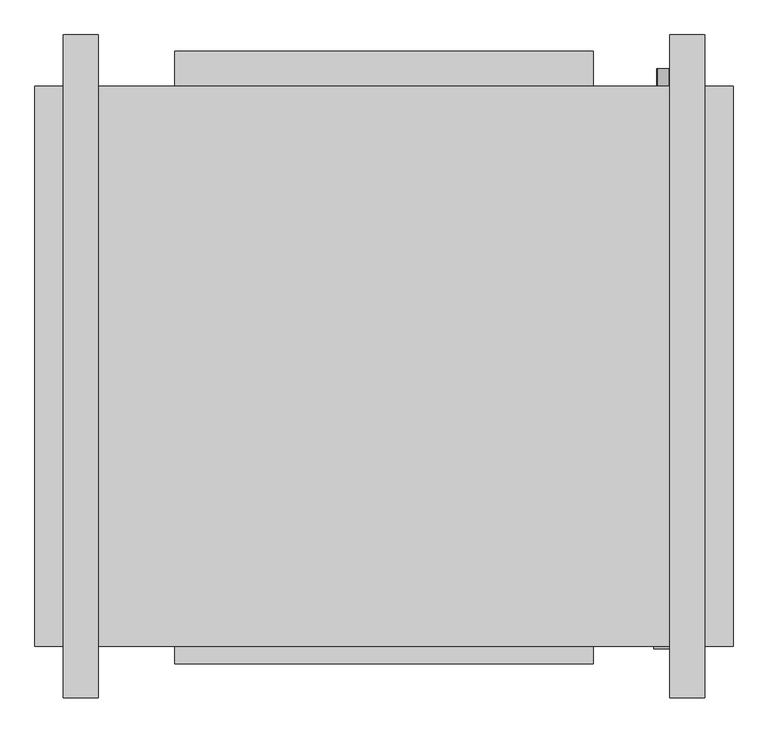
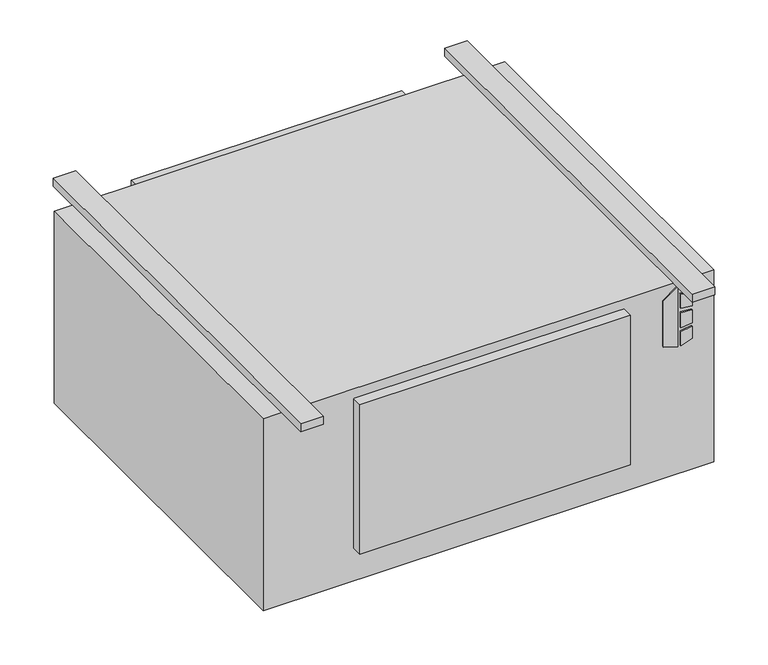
"""IFC4 building model written with IfcOpenShell, lengths in millimetres: proxy geometry, Concealed_High_Capacity_Horizontal_Cabinet_Fan_Coil_Unit_-_HXY_-_IEC_-_2-Pipe_Cool-EHeat_RH_2022 : Size 10 - 277v/60Hz/1Ph - 6 Row 7.0kW."""

from ifc_helpers import new_model, si_unit, point, frame, frame_2d, origin, origin_with_axes, place, context, project, spatial, polyline, circle_curve, trimmed, segment, composite_curve, outline, extrude, source, transform, mapped, element, save


def mechanical_equipment_601507ec(model_context):
    return source(origin(), model_context, "Body", "SweptSolid", [
        extrude(outline(polyline([(-142.4519297, 544.5868862), (-152.4, 576.7602728), (-10.2290756, 576.7602728), (-33.2510817, 544.5868862), (-142.4519297, 544.5868862)])), frame((0.0, -649.2875, 0.0), z_axis=(0.0, 1.0, 0.0), x_axis=(0.0, 0.0, 1.0)), (0.0, 0.0, 1.0), 3.175),
        extrude(outline(polyline([(-63.4526443, 583.5186058), (-66.6550368, 609.6), (-37.4261958, 609.6), (-29.3617807, 583.5186058), (-63.4526443, 583.5186058)])), frame((0.0, -649.2875, 0.0), z_axis=(0.0, 1.0, 0.0), x_axis=(0.0, 0.0, 1.0)), (0.0, 0.0, 1.0), 3.175),
        extrude(outline(polyline([(-115.3161712, 609.6), (-118.9816721, 583.5186058), (-152.4, 583.5186058), (-143.7657628, 609.6), (-115.3161712, 609.6)])), frame((0.0, -649.2875, 0.0), z_axis=(0.0, 1.0, 0.0), x_axis=(0.0, 0.0, 1.0)), (0.0, 0.0, 1.0), 3.175),
        extrude(outline(polyline([(-76.0010097, 609.6), (-73.7191834, 583.5186058), (-109.6567319, 583.5186058), (-106.9154669, 609.6), (-76.0010097, 609.6)])), frame((0.0, -649.2875, 0.0), z_axis=(0.0, 1.0, 0.0), x_axis=(0.0, 0.0, 1.0)), (0.0, 0.0, 1.0), 3.175),
        extrude(outline(composite_curve([segment(trimmed(circle_curve(frame_2d((-406.4, 558.8)), 9.525), [point((-406.4, 549.275))], [point((-406.4, 568.325))], False, "CARTESIAN"), True, "CONTINUOUS"), segment(trimmed(circle_curve(frame_2d((-406.4, 558.8)), 9.525), [point((-406.4, 568.325))], [point((-406.4, 549.275))], False, "CARTESIAN"), True, "CONTINUOUS")], self_intersect=False)), frame((0.0, 169.8625, 0.0), z_axis=(0.0, 1.0, 0.0), x_axis=(0.0, 0.0, 1.0)), (0.0, 0.0, 1.0), 25.4),
        extrude(outline(composite_curve([segment(trimmed(circle_curve(frame_2d((-330.2, 558.8)), 7.9375), [point((-330.2, 550.8625))], [point((-330.2, 566.7375))], False, "CARTESIAN"), True, "CONTINUOUS"), segment(trimmed(circle_curve(frame_2d((-330.2, 558.8)), 7.9375), [point((-330.2, 566.7375))], [point((-330.2, 550.8625))], False, "CARTESIAN"), True, "CONTINUOUS")], self_intersect=False)), frame((0.0, 169.8625, 0.0), z_axis=(0.0, 1.0, 0.0), x_axis=(0.0, 0.0, 1.0)), (0.0, 0.0, 1.0), 25.4),
        extrude(outline(composite_curve([segment(trimmed(circle_curve(frame_2d((-254.0, 558.8)), 7.9375), [point((-254.0, 550.8625))], [point((-254.0, 566.7375))], False, "CARTESIAN"), True, "CONTINUOUS"), segment(trimmed(circle_curve(frame_2d((-254.0, 558.8)), 7.9375), [point((-254.0, 566.7375))], [point((-254.0, 550.8625))], False, "CARTESIAN"), True, "CONTINUOUS")], self_intersect=False)), frame((0.0, 169.8625, 0.0), z_axis=(0.0, 1.0, 0.0), x_axis=(0.0, 0.0, 1.0)), (0.0, 0.0, 1.0), 25.4),
        extrude(outline(polyline([(660.4, 169.8625), (660.4, -646.1125), (-355.6, -646.1125), (-355.6, 169.8625), (660.4, 169.8625)])), frame((0.0, 0.0, -457.2), z_axis=(0.0, 0.0, 1.0), x_axis=(1.0, 0.0, 0.0)), (0.0, 0.0, 1.0), 457.2),
        extrude(outline(polyline([(-152.4, 220.6625), (457.2, 220.6625), (457.2, 169.8625), (-152.4, 169.8625), (-152.4, 220.6625)])), frame((0.0, 0.0, -377.825), z_axis=(0.0, 0.0, 1.0), x_axis=(1.0, 0.0, 0.0)), (0.0, 0.0, 1.0), 349.25),
        extrude(outline(polyline([(-263.525, 244.475), (-263.525, -720.725), (-314.325, -720.725), (-314.325, 244.475), (-263.525, 244.475)])), origin_with_axes(), (0.0, 0.0, 1.0), 19.05),
        extrude(outline(polyline([(619.125, 244.475), (619.125, -720.725), (568.325, -720.725), (568.325, 244.475), (619.125, 244.475)])), origin_with_axes(), (0.0, 0.0, 1.0), 19.05),
        extrude(outline(polyline([(457.2, -671.5125), (-152.4, -671.5125), (-152.4, -646.1125), (457.2, -646.1125), (457.2, -671.5125)])), frame((0.0, 0.0, -377.825), z_axis=(0.0, 0.0, 1.0), x_axis=(1.0, 0.0, 0.0)), (0.0, 0.0, 1.0), 355.6),
    ])


if __name__ == "__main__":
    model = new_model("IFC4")
    model_context = context("Model", 3, world=origin())
    ifc_project = project(units=[si_unit("LENGTHUNIT", "METRE", prefix="MILLI")], contexts=[model_context])
    site = spatial("IfcSite", under=ifc_project)
    building = spatial("IfcBuilding", under=site)
    placement = place(None, origin())
    mechanical_equipment_shape = mechanical_equipment_601507ec(model_context)
    element("IfcBuildingElementProxy", 1, Name="Concealed_High_Capacity_Horizontal_Cabinet_Fan_Coil_Unit_-_HXY_-_IEC_-_2-Pipe_Cool-EHeat_RH_2022 : Size 10 - 277v/60Hz/1Ph - 6 Row 7.0kW", ObjectType="Concealed_High_Capacity_Horizontal_Cabinet_Fan_Coil_Unit_-_HXY_-_IEC_-_2-Pipe_Cool-EHeat_RH_2022 : Size 10 - 277v/60Hz/1Ph - 6 Row 7.0kW", at=placement, inside=building, context=model_context, shape_type="MappedRepresentation", body=[
        mapped(mechanical_equipment_shape, transform((0.0, 0.0, 0.0), x_axis=(1.0, 0.0, 0.0), y_axis=(0.0, 1.0, 0.0), z_axis=(0.0, 0.0, 1.0))),
    ])
    save(model, "model.ifc")
